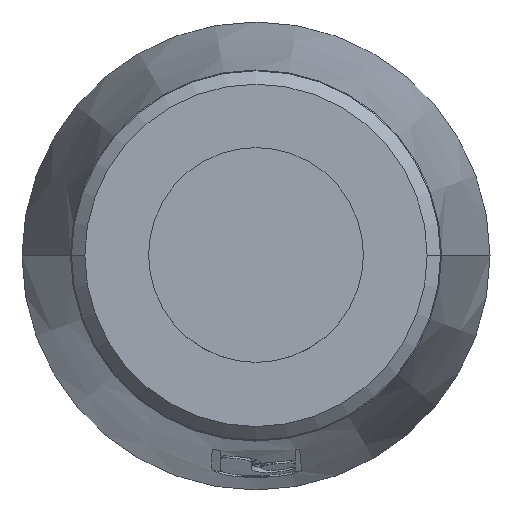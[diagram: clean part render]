
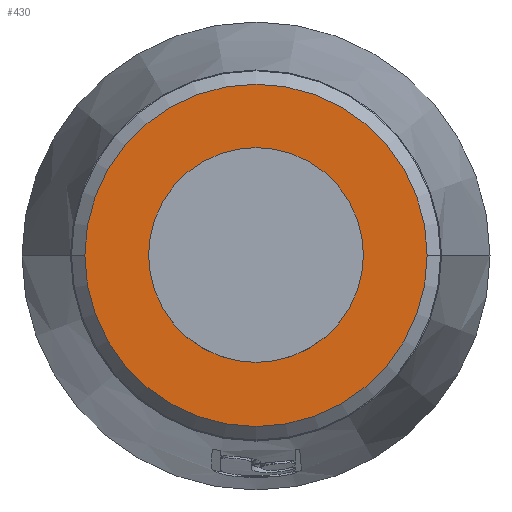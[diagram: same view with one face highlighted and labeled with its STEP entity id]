
A CAD part, top view. The second image highlights one B-rep face of the part: STEP entity #430.
In plain terms, the highlighted planar face has unit normal (0, 0, 1).
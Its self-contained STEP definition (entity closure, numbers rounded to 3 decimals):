
#430=ADVANCED_FACE('',(#834),#835,.T.);
#834=FACE_OUTER_BOUND('',#1242,.T.);
#835=PLANE('',#1243);
#1242=EDGE_LOOP('',(#2287,#2288));
#1243=AXIS2_PLACEMENT_3D('',#2289,#2290,#2291);
#2287=ORIENTED_EDGE('',*,*,#2744,.F.);
#2288=ORIENTED_EDGE('',*,*,#2749,.F.);
#2289=CARTESIAN_POINT('',(256.905,242.783,112.));
#2290=DIRECTION('',(0.,0.,1.0));
#2291=DIRECTION('',(1.0,0.,0.));
#2744=EDGE_CURVE('',#3347,#3349,#3350,.T.);
#2749=EDGE_CURVE('',#3349,#3347,#3355,.T.);
#3347=VERTEX_POINT('',#4847);
#3349=VERTEX_POINT('',#4850);
#3350=CIRCLE('',#4851,51.);
#3355=CIRCLE('',#4857,51.);
#4847=CARTESIAN_POINT('',(240.655,242.783,112.0));
#4850=CARTESIAN_POINT('',(342.655,242.783,112.));
#4851=AXIS2_PLACEMENT_3D('',#5320,#5321,#5322);
#4857=AXIS2_PLACEMENT_3D('',#5327,#5328,#5329);
#5320=CARTESIAN_POINT('',(291.655,242.783,112.));
#5321=DIRECTION('',(0.,0.,-1.0));
#5322=DIRECTION('',(-1.0,0.,0.));
#5327=CARTESIAN_POINT('',(291.655,242.783,112.));
#5328=DIRECTION('',(0.,0.,-1.0));
#5329=DIRECTION('',(-1.0,0.,0.));
